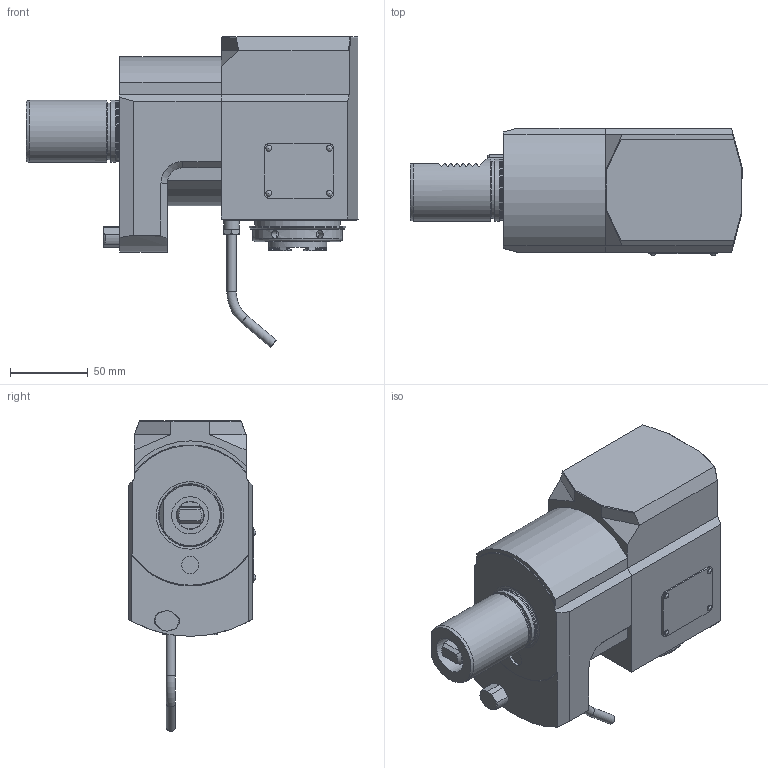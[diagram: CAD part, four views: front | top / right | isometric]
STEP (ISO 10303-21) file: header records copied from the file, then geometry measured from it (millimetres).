
FILE_DESCRIPTION(/* description */ (''),/* implementation_level */ '2;1');
FILE_NAME(/* name */ '124854',/* time_stamp */ '2018-09-12T14:45:37+02:00',/* author */ (''),/* organization */ (''),/* preprocessor_version */ 'ST-DEVELOPER v16.5',/* originating_system */ 'HiCAD 2017 2201.0 Build 268',/* authorisation */ '');
FILE_SCHEMA (('AUTOMOTIVE_DESIGN { 1 0 10303 214 1 1 1 1 }'));
Length unit declared in the file: millimetre
Products named in the file (14): Root; Leeres Teil; 00011481_370*; 113692_Kerbnagel 2x4_380*; 112485_Überwurfschraube_353*; TORUS_1_354*; 002_000X_100*; ROTATIONSTEIL_0_150*; 112963_Spannmutter ER32 HI_QERAXC_340*; ROTATIONSTEIL_1_120*
Assembly tree (13 placements, depth 4):
  Root
    Leeres Teil
      Leeres Teil
        00011481_370*
        113692_Kerbnagel 2x4_380*
        113692_Kerbnagel 2x4_380*
        113692_Kerbnagel 2x4_380*
        113692_Kerbnagel 2x4_380*
      112485_Überwurfschraube_353*
      TORUS_1_354*
      002_000X_100*
      ROTATIONSTEIL_0_150*
      112963_Spannmutter ER32 HI_QERAXC_340*
      ROTATIONSTEIL_1_120*
Bounding box: 214 x 82.3 x 200.17 mm (x, y, z)
Volume: 1379090.6 mm3; surface area: 133217.9 mm2
Topology: 12 solids, 13 shells, 425 faces, 1080 edges, 704 vertices
Faces by surface type: plane 236, cylinder 129, cone 33, torus 23, sphere 4
Full cylindrical faces by diameter (mm): 2 x4, 2.2 x4, 4 x2, 5.1 x6, 6 x5, 7.5 x1, 10 x1, 11.1 x1, 18 x1, 20 x2, 23.5 x1, 24 x2, 27 x2, 29 x2, 29.4 x1, 36.5 x1, 37.5 x1, 38 x1, 38.5 x1, 39.4 x1, 40 x3, 40.501 x1, 47 x1, 47.4 x1, 55 x1, 58 x1, 62 x1, 64.4 x1, 67.8 x1
Entity records: 19638 total; most frequent: CARTESIAN_POINT 9910, DIRECTION 2062, ORIENTED_EDGE 1880, EDGE_CURVE 940, AXIS2_PLACEMENT_3D 817, VERTEX_POINT 662, FACE_BOUND 564, EDGE_LOOP 557
